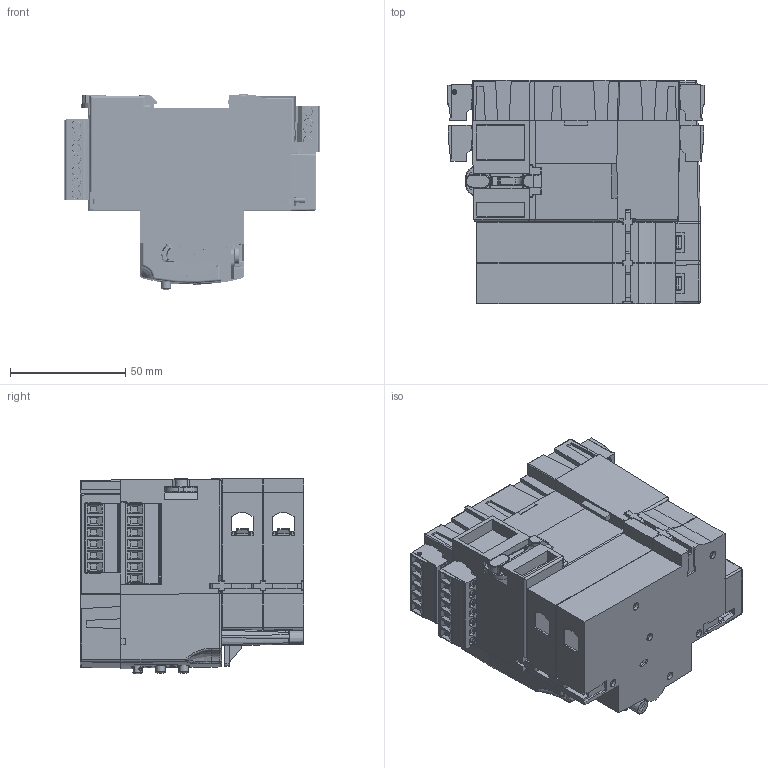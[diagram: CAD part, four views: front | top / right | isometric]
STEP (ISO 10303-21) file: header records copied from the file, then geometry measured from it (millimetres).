
FILE_DESCRIPTION((''),'2;1');
FILE_NAME('PRT0001','2019-09-13T',('esors'),(''),'CREO PARAMETRIC BY PTC INC, 2015290','CREO PARAMETRIC BY PTC INC, 2015290','');
FILE_SCHEMA(('AUTOMOTIVE_DESIGN { 1 0 10303 214 1 1 1 1 }'));
Products named in the file (1): PRT0001
Bounding box: 111.25 x 96.85 x 84.7 mm (x, y, z)
Volume: 85330 mm3; surface area: 170825.7 mm2
Topology: 14 solids, 19 shells, 6553 faces, 18749 edges, 12467 vertices
Faces by surface type: plane 4530, cylinder 1183, cone 298, extrusion 290, bspline 110, torus 101, sphere 35, revolution 6
Entity records: 225425 total; most frequent: CARTESIAN_POINT 54189, ORIENTED_EDGE 37434, DIRECTION 31908, EDGE_CURVE 18726, VECTOR 13606, LINE 13316, VERTEX_POINT 12465, AXIS2_PLACEMENT_3D 9148
